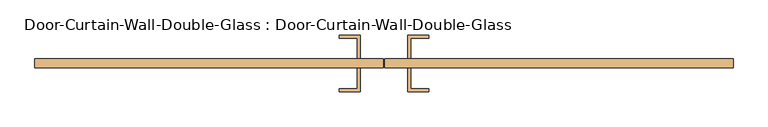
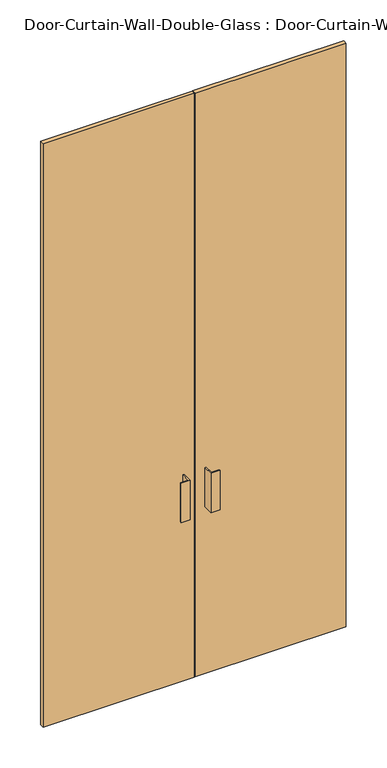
"""IFC4 building model written with IfcOpenShell, lengths in millimetres: door geometry, Door-Curtain-Wall-Double-Glass : Door-Curtain-Wall-Double-Glass."""

from ifc_helpers import new_model, si_unit, frame, origin, origin_with_axes, place, context, project, spatial, polyline, outline, extrude, source, transform, mapped, element, save


def door_curtain_wall_double_glass_door_curtain_wall_double_8d860489(model_context):
    return source(origin(), model_context, "Body", "SweptSolid", [
        extrude(outline(polyline([(-1.6143999, -31.75), (-1.6143999, -50.8), (-742.950003, -50.8), (-742.950003, -31.75), (-1.6143999, -31.75)])), origin_with_axes(), (0.0, 0.0, 1.0), 3022.6),
        extrude(outline(polyline([(742.950003, -31.75), (742.950003, -50.8), (1.5606001, -50.8), (1.5606001, -31.75), (742.950003, -31.75)])), origin_with_axes(), (0.0, 0.0, 1.0), 3022.6),
        extrude(outline(polyline([(-50.8268999, -101.6), (-95.2768999, -101.6), (-95.2768999, -95.25), (-57.1768999, -95.25), (-57.1768999, -50.8), (-50.8268999, -50.8), (-50.8268999, -101.6)])), frame((0.0, 0.0, 863.6), z_axis=(0.0, 0.0, 1.0), x_axis=(1.0, 0.0, 0.0)), (0.0, 0.0, 1.0), 203.2),
        extrude(outline(polyline([(50.7731001, -101.6), (50.7731001, -50.8), (57.1231001, -50.8), (57.1231001, -95.25), (95.2231001, -95.25), (95.2231001, -101.6), (50.7731001, -101.6)])), frame((0.0, 0.0, 863.6), z_axis=(0.0, 0.0, 1.0), x_axis=(1.0, 0.0, 0.0)), (0.0, 0.0, 1.0), 203.2),
        extrude(outline(polyline([(-50.8268999, 19.05), (-50.8268999, -31.75), (-57.1768999, -31.75), (-57.1768999, 12.7), (-95.2768999, 12.7), (-95.2768999, 19.05), (-50.8268999, 19.05)])), frame((0.0, 0.0, 863.6), z_axis=(0.0, 0.0, 1.0), x_axis=(1.0, 0.0, 0.0)), (0.0, 0.0, 1.0), 203.2),
        extrude(outline(polyline([(50.7731001, 19.05), (95.2231001, 19.05), (95.2231001, 12.7), (57.1231001, 12.7), (57.1231001, -31.75), (50.7731001, -31.75), (50.7731001, 19.05)])), frame((0.0, 0.0, 863.6), z_axis=(0.0, 0.0, 1.0), x_axis=(1.0, 0.0, 0.0)), (0.0, 0.0, 1.0), 203.2),
    ])


if __name__ == "__main__":
    model = new_model("IFC4")
    model_context = context("Model", 3, world=origin())
    ifc_project = project(units=[si_unit("LENGTHUNIT", "METRE", prefix="MILLI")], contexts=[model_context])
    site = spatial("IfcSite", under=ifc_project)
    building = spatial("IfcBuilding", under=site)
    placement = place(None, origin())
    door_curtain_wall_double_glass_door_curtain_wall_double_shape = door_curtain_wall_double_glass_door_curtain_wall_double_8d860489(model_context)
    element("IfcDoor", 1, ObjectType="Door-Curtain-Wall-Double-Glass : Door-Curtain-Wall-Double-Glass", at=placement, inside=building, context=model_context, shape_type="MappedRepresentation", body=[
        mapped(door_curtain_wall_double_glass_door_curtain_wall_double_shape, transform((0.0, 0.0, 0.0), x_axis=(1.0, 0.0, 0.0), y_axis=(0.0, 1.0, 0.0), z_axis=(0.0, 0.0, 1.0))),
    ])
    save(model, "model.ifc")
